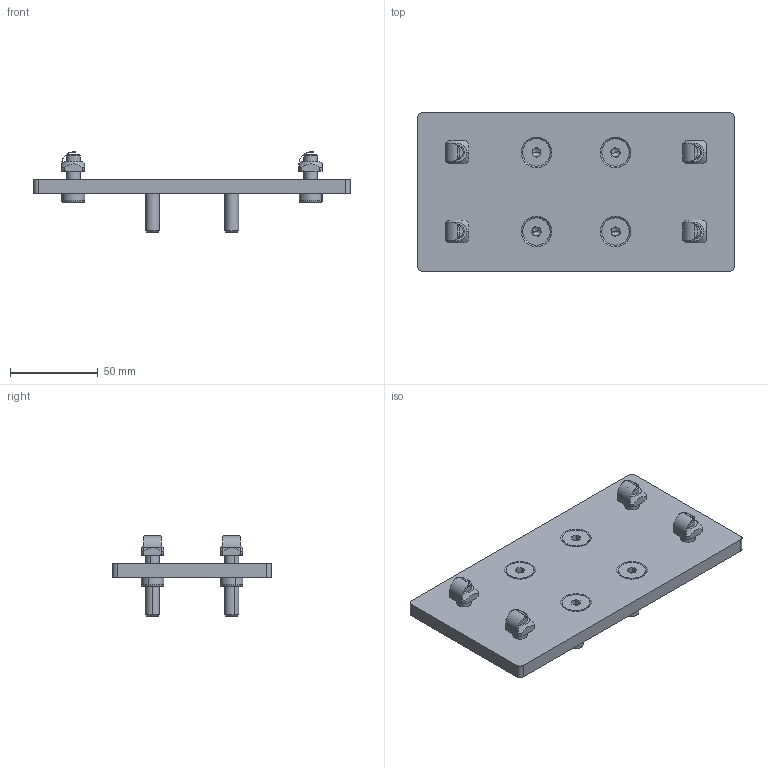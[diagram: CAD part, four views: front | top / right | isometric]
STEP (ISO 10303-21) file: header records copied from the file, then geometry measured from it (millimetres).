
FILE_DESCRIPTION (( 'STEP AP214' ), '1' );
FILE_NAME ('1.3071 90X90 Päätykiinnityslevy.STEP', '2025-12-01T08:42:26', ( '' ), ( '' ), 'SwSTEP 2.0', 'SolidWorks 2025', '' );
FILE_SCHEMA (( 'AUTOMOTIVE_DESIGN' ));
Length unit declared in the file: millimetre
Products named in the file (1): 1.3071 90X90 Päätykiinnityslevy
Bounding box: 180 x 90 x 45.65 mm (x, y, z)
Volume: 140835.4 mm3; surface area: 49512.2 mm2
Topology: 13 solids, 13 shells, 378 faces, 888 edges, 532 vertices
Faces by surface type: plane 210, cylinder 76, cone 68, torus 24
Entity records: 15313 total; most frequent: CARTESIAN_POINT 2347, DIRECTION 1846, ORIENTED_EDGE 1744, EDGE_CURVE 872, AXIS2_PLACEMENT_3D 671, VERTEX_POINT 532, VECTOR 504, LINE 504
